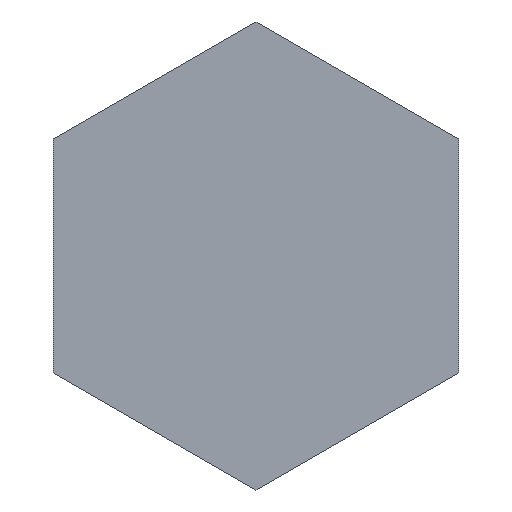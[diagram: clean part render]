
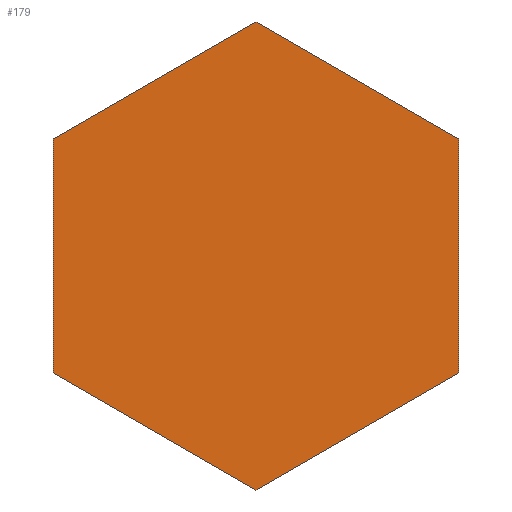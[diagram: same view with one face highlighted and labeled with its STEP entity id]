
A CAD part, front view. The second image highlights one B-rep face of the part: STEP entity #179.
In plain terms, the highlighted planar face has unit normal (0, -1, 0).
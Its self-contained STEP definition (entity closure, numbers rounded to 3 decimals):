
#53=FACE_OUTER_BOUND('',#61,.T.);
#61=EDGE_LOOP('',(#158,#159,#160,#161,#162,#163));
#69=LINE('',#304,#87);
#72=LINE('',#309,#90);
#74=LINE('',#313,#92);
#76=LINE('',#317,#94);
#78=LINE('',#321,#96);
#79=LINE('',#323,#97);
#87=VECTOR('',#237,10.);
#90=VECTOR('',#242,10.);
#92=VECTOR('',#246,10.);
#94=VECTOR('',#250,10.);
#96=VECTOR('',#254,10.);
#97=VECTOR('',#257,10.);
#104=VERTEX_POINT('',#301);
#105=VERTEX_POINT('',#303);
#106=VERTEX_POINT('',#307);
#107=VERTEX_POINT('',#311);
#108=VERTEX_POINT('',#315);
#109=VERTEX_POINT('',#319);
#117=EDGE_CURVE('',#104,#105,#69,.T.);
#120=EDGE_CURVE('',#106,#104,#72,.T.);
#122=EDGE_CURVE('',#107,#106,#74,.T.);
#124=EDGE_CURVE('',#108,#107,#76,.T.);
#126=EDGE_CURVE('',#109,#108,#78,.T.);
#127=EDGE_CURVE('',#105,#109,#79,.T.);
#158=ORIENTED_EDGE('',*,*,#122,.F.);
#159=ORIENTED_EDGE('',*,*,#124,.F.);
#160=ORIENTED_EDGE('',*,*,#126,.F.);
#161=ORIENTED_EDGE('',*,*,#127,.F.);
#162=ORIENTED_EDGE('',*,*,#117,.F.);
#163=ORIENTED_EDGE('',*,*,#120,.F.);
#171=PLANE('',#210);
#179=ADVANCED_FACE('',(#53),#171,.F.);
#210=AXIS2_PLACEMENT_3D('',#324,#258,#259);
#237=DIRECTION('',(0.866,0.,-0.5));
#242=DIRECTION('',(0.866,0.,0.5));
#246=DIRECTION('',(0.,0.,1.));
#250=DIRECTION('',(-0.866,0.,0.5));
#254=DIRECTION('',(-0.866,0.,-0.5));
#257=DIRECTION('',(0.,0.,-1.));
#258=DIRECTION('center_axis',(0.,1.,0.));
#259=DIRECTION('ref_axis',(0.,0.,1.));
#301=CARTESIAN_POINT('',(0.,0.,23.094));
#303=CARTESIAN_POINT('',(20.,0.,11.547));
#304=CARTESIAN_POINT('',(0.,0.,23.094));
#307=CARTESIAN_POINT('',(-20.,0.,11.547));
#309=CARTESIAN_POINT('',(-20.,0.,11.547));
#311=CARTESIAN_POINT('',(-20.,0.,-11.547));
#313=CARTESIAN_POINT('',(-20.,0.,-11.547));
#315=CARTESIAN_POINT('',(0.,0.,-23.094));
#317=CARTESIAN_POINT('',(0.,0.,-23.094));
#319=CARTESIAN_POINT('',(20.,0.,-11.547));
#321=CARTESIAN_POINT('',(20.,0.,-11.547));
#323=CARTESIAN_POINT('',(20.,0.,11.547));
#324=CARTESIAN_POINT('Origin',(0.,0.,0.));
